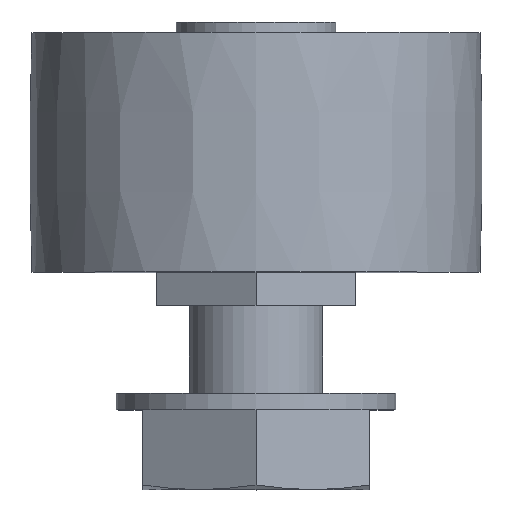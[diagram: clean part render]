
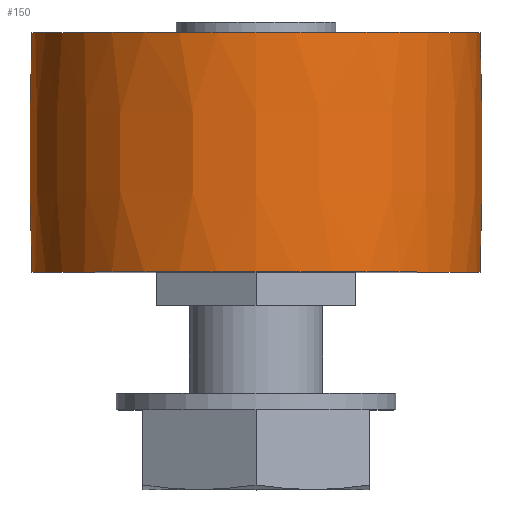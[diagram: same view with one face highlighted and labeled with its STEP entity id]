
A CAD part, top view. The second image highlights one B-rep face of the part: STEP entity #150.
In plain terms, the highlighted free-form (B-spline) face has degree [3, 3] with [4, 7] control points.
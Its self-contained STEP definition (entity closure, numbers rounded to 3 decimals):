
#150 = ADVANCED_FACE( '', ( #217, #218 ), #219, .T. );
#217 = FACE_OUTER_BOUND( '', #309, .T. );
#218 = FACE_OUTER_BOUND( '', #310, .T. );
#219 = ( BOUNDED_SURFACE(  )B_SPLINE_SURFACE( 3, 3, ( ( #313, #314, #315, #316, #317, #318, #319 ), ( #320, #321, #322, #323, #324, #325, #326 ), ( #327, #328, #329, #330, #331, #332, #333 ), ( #334, #335, #336, #337, #338, #339, #340 ) ), .UNSPECIFIED., .F., .T., .F. )B_SPLINE_SURFACE_WITH_KNOTS( ( 4, 4 ), ( 4, 3, 4 ), ( 0., 6.283 ), ( -0.036, 0., 0.036 ), .UNSPECIFIED. )GEOMETRIC_REPRESENTATION_ITEM(  )RATIONAL_B_SPLINE_SURFACE( ( ( 1., 0.333, 0.333, 1., 0.333, 0.333, 1. ), ( 1., 0.333, 0.333, 1., 0.333, 0.333, 1. ), ( 1., 0.333, 0.333, 1., 0.333, 0.333, 1. ), ( 1., 0.333, 0.333, 1., 0.333, 0.333, 1. ) ) )REPRESENTATION_ITEM( '' )SURFACE(  ) );
#309 = EDGE_LOOP( '', ( #511 ) );
#310 = EDGE_LOOP( '', ( #512 ) );
#313 = CARTESIAN_POINT( '', ( 0., 2.5, -16.838 ) );
#314 = CARTESIAN_POINT( '', ( 33.676, 2.5, -16.838 ) );
#315 = CARTESIAN_POINT( '', ( 33.676, 2.5, 16.838 ) );
#316 = CARTESIAN_POINT( '', ( 0., 2.5, 16.838 ) );
#317 = CARTESIAN_POINT( '', ( -33.676, 2.5, 16.838 ) );
#318 = CARTESIAN_POINT( '', ( -33.676, 2.5, -16.838 ) );
#319 = CARTESIAN_POINT( '', ( 0., 2.5, -16.838 ) );
#320 = CARTESIAN_POINT( '', ( 0., 8.499, -17.054 ) );
#321 = CARTESIAN_POINT( '', ( 34.108, 8.499, -17.054 ) );
#322 = CARTESIAN_POINT( '', ( 34.108, 8.499, 17.054 ) );
#323 = CARTESIAN_POINT( '', ( 0., 8.499, 17.054 ) );
#324 = CARTESIAN_POINT( '', ( -34.108, 8.499, 17.054 ) );
#325 = CARTESIAN_POINT( '', ( -34.108, 8.499, -17.054 ) );
#326 = CARTESIAN_POINT( '', ( 0., 8.499, -17.054 ) );
#327 = CARTESIAN_POINT( '', ( 0., 14.501, -17.054 ) );
#328 = CARTESIAN_POINT( '', ( 34.108, 14.501, -17.054 ) );
#329 = CARTESIAN_POINT( '', ( 34.108, 14.501, 17.054 ) );
#330 = CARTESIAN_POINT( '', ( 0., 14.501, 17.054 ) );
#331 = CARTESIAN_POINT( '', ( -34.108, 14.501, 17.054 ) );
#332 = CARTESIAN_POINT( '', ( -34.108, 14.501, -17.054 ) );
#333 = CARTESIAN_POINT( '', ( 0., 14.501, -17.054 ) );
#334 = CARTESIAN_POINT( '', ( 0., 20.5, -16.838 ) );
#335 = CARTESIAN_POINT( '', ( 33.676, 20.5, -16.838 ) );
#336 = CARTESIAN_POINT( '', ( 33.676, 20.5, 16.838 ) );
#337 = CARTESIAN_POINT( '', ( 0., 20.5, 16.838 ) );
#338 = CARTESIAN_POINT( '', ( -33.676, 20.5, 16.838 ) );
#339 = CARTESIAN_POINT( '', ( -33.676, 20.5, -16.838 ) );
#340 = CARTESIAN_POINT( '', ( 0., 20.5, -16.838 ) );
#511 = ORIENTED_EDGE( '', *, *, #703, .T. );
#512 = ORIENTED_EDGE( '', *, *, #704, .F. );
#703 = EDGE_CURVE( '', #816, #816, #817, .T. );
#704 = EDGE_CURVE( '', #818, #818, #819, .T. );
#816 = VERTEX_POINT( '', #988 );
#817 = CIRCLE( '', #989, 16.838 );
#818 = VERTEX_POINT( '', #990 );
#819 = CIRCLE( '', #991, 16.838 );
#988 = CARTESIAN_POINT( '', ( 0., 20.5, -16.838 ) );
#989 = AXIS2_PLACEMENT_3D( '', #1149, #1150, #1151 );
#990 = CARTESIAN_POINT( '', ( 0., 2.5, -16.838 ) );
#991 = AXIS2_PLACEMENT_3D( '', #1152, #1153, #1154 );
#1149 = CARTESIAN_POINT( '', ( 0., 20.5, 0. ) );
#1150 = DIRECTION( '', ( 0., -1., 0. ) );
#1151 = DIRECTION( '', ( 0., 0., -1. ) );
#1152 = CARTESIAN_POINT( '', ( 0., 2.5, 0. ) );
#1153 = DIRECTION( '', ( 0., -1., 0. ) );
#1154 = DIRECTION( '', ( 0., 0., -1. ) );
